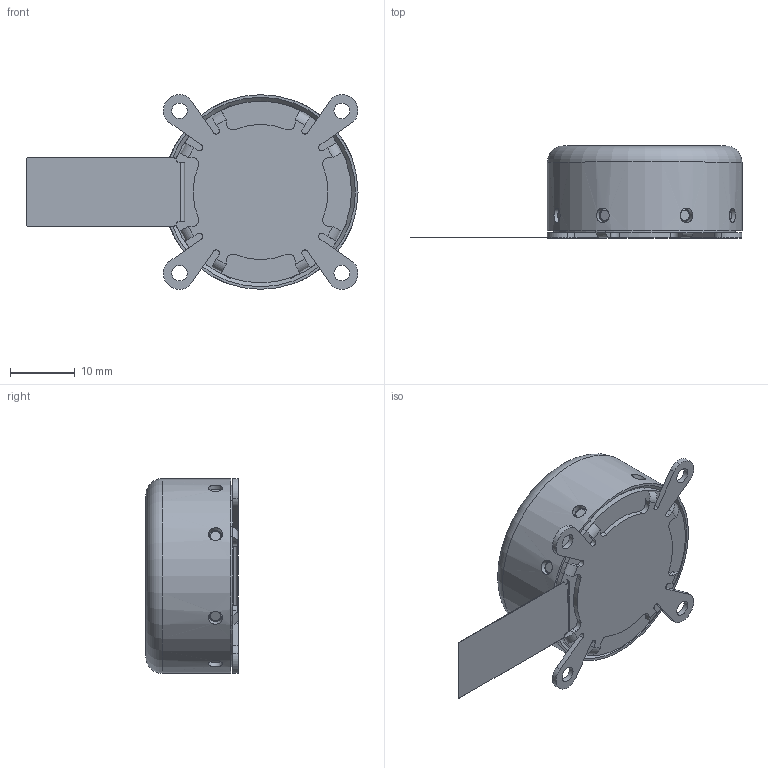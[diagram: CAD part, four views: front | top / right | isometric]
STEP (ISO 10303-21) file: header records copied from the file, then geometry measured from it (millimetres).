
FILE_DESCRIPTION (( 'STEP AP214' ), '1' );
FILE_NAME ('145-900-XX_MR-10-30_ENVELOPE.STEP', '2024-04-24T06:33:11', ( '' ), ( '' ), 'SwSTEP 2.0', 'SolidWorks 2022', '' );
FILE_SCHEMA (( 'AUTOMOTIVE_DESIGN' ));
Length unit declared in the file: millimetre
Products named in the file (1): 145-900-XX_MR-10-30_ENVELOPE
Bounding box: 51.16 x 14.2 x 30 mm (x, y, z)
Volume: 9304.1 mm3; surface area: 8728.1 mm2
Topology: 13 solids, 13 shells, 391 faces, 927 edges, 582 vertices
Faces by surface type: plane 202, cylinder 137, torus 38, cone 10, bspline 4
Full cylindrical faces by diameter (mm): 0.6 x4, 0.89 x4, 1.02 x1, 1.2 x2, 2.2 x8, 2.4 x4, 4.6 x1, 10 x2, 16.4 x1, 18 x1, 20.6 x1, 23.2 x1, 23.5 x1, 26.5 x1, 28 x2, 30 x1
Entity records: 17422 total; most frequent: CARTESIAN_POINT 4150, DIRECTION 1880, ORIENTED_EDGE 1652, EDGE_CURVE 826, AXIS2_PLACEMENT_3D 698, VERTEX_POINT 570, EDGE_LOOP 546, LINE 484
